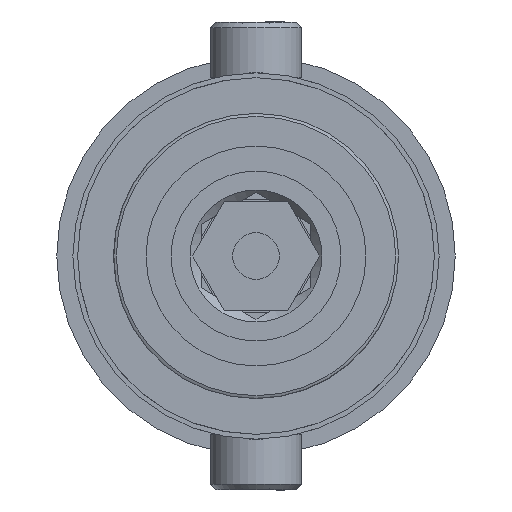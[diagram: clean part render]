
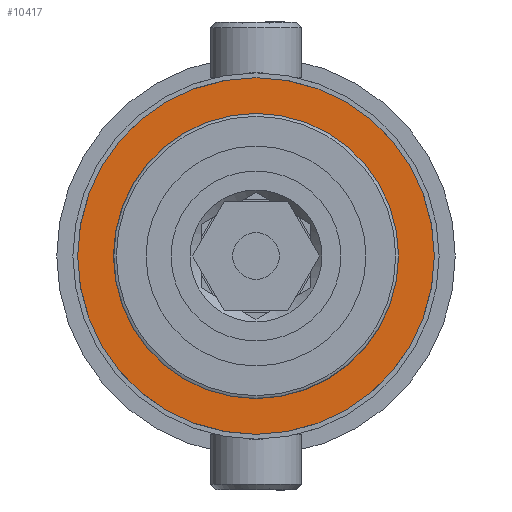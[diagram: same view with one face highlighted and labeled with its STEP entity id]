
A CAD part, left-side view. The second image highlights one B-rep face of the part: STEP entity #10417.
In plain terms, the highlighted planar face has unit normal (-1, 0, 0) as drawn and (0, -1, 0) by its records, which use the part's own axes.
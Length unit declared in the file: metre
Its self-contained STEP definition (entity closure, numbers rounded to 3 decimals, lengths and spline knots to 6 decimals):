
#1749=PLANE('',#12096);
#2438=CIRCLE('',#12095,0.015457);
#2439=CIRCLE('',#12097,0.00635);
#5042=ORIENTED_EDGE('',*,*,#6678,.F.);
#5043=ORIENTED_EDGE('',*,*,#6677,.T.);
#6677=EDGE_CURVE('',#7663,#7663,#2438,.T.);
#6678=EDGE_CURVE('',#7664,#7664,#2439,.T.);
#7663=VERTEX_POINT('',#21179);
#7664=VERTEX_POINT('',#21182);
#8589=EDGE_LOOP('',(#5042));
#8590=EDGE_LOOP('',(#5043));
#9426=FACE_BOUND('',#8589,.T.);
#9427=FACE_BOUND('',#8590,.T.);
#10417=ADVANCED_FACE('',(#9426,#9427),#1749,.T.);
#12095=AXIS2_PLACEMENT_3D('',#21178,#15316,#15317);
#12096=AXIS2_PLACEMENT_3D('',#21180,#15318,#15319);
#12097=AXIS2_PLACEMENT_3D('',#21181,#15320,#15321);
#15316=DIRECTION('',(0.,-1.,0.));
#15317=DIRECTION('',(0.,0.,-1.));
#15318=DIRECTION('',(0.,-1.,0.));
#15319=DIRECTION('',(1.,0.,0.));
#15320=DIRECTION('',(0.,-1.,0.));
#15321=DIRECTION('',(0.,0.,-1.));
#21178=CARTESIAN_POINT('',(0.0635,-0.007938,0.));
#21179=CARTESIAN_POINT('',(0.0635,-0.007938,-0.015457));
#21180=CARTESIAN_POINT('',(0.0635,-0.007938,0.));
#21181=CARTESIAN_POINT('',(0.0635,-0.007938,0.));
#21182=CARTESIAN_POINT('',(0.0635,-0.007938,-0.00635));
